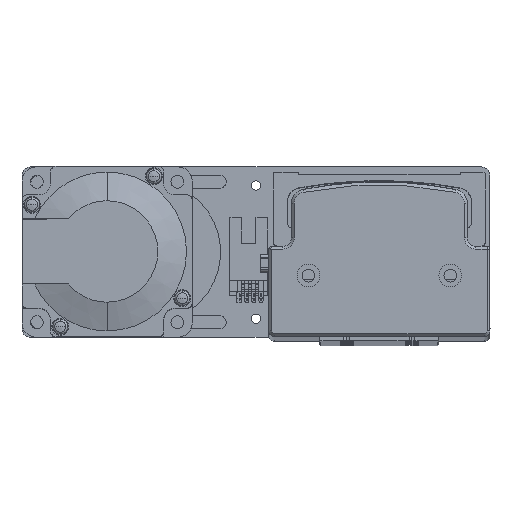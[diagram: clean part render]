
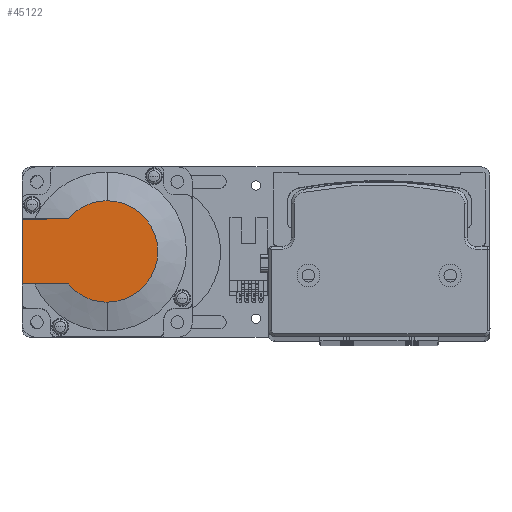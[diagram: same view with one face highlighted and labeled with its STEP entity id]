
A CAD part, top view. The second image highlights one B-rep face of the part: STEP entity #45122.
In plain terms, the highlighted planar face has unit normal (0, 0, 1) as drawn and (-1, 0, 0) by its records, which use the part's own axes.
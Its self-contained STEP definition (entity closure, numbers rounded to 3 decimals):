
#1243 = DIRECTION ( 'NONE',  ( 0., 0., -1. ) ) ;
#1845 = VERTEX_POINT ( 'NONE', #1868 ) ;
#1868 = CARTESIAN_POINT ( 'NONE',  ( -118.5, 13.735, -11.45 ) ) ;
#2064 = PLANE ( 'NONE',  #12110 ) ;
#2220 = DIRECTION ( 'NONE',  ( 0., 0., 1. ) ) ;
#4732 = DIRECTION ( 'NONE',  ( 0., 0., 1. ) ) ;
#5054 = VERTEX_POINT ( 'NONE', #29376 ) ;
#5830 = LINE ( 'NONE', #32334, #16239 ) ;
#6068 = CARTESIAN_POINT ( 'NONE',  ( -118.5, 0., 0. ) ) ;
#7647 = DIRECTION ( 'NONE',  ( 0., -1., 0. ) ) ;
#7812 = EDGE_CURVE ( 'NONE', #46899, #5054, #33372, .T. ) ;
#8676 = VERTEX_POINT ( 'NONE', #37145 ) ;
#9392 = ORIENTED_EDGE ( 'NONE', *, *, #22452, .T. ) ;
#9991 = DIRECTION ( 'NONE',  ( 0., 0., -1. ) ) ;
#10441 = CIRCLE ( 'NONE', #35447, 17.881 ) ;
#12110 = AXIS2_PLACEMENT_3D ( 'NONE', #49567, #25924, #2220 ) ;
#13311 = ORIENTED_EDGE ( 'NONE', *, *, #47789, .T. ) ;
#14910 = EDGE_CURVE ( 'NONE', #8676, #5054, #31184, .T. ) ;
#16239 = VECTOR ( 'NONE', #4732, 1000. ) ;
#16952 = ORIENTED_EDGE ( 'NONE', *, *, #14910, .T. ) ;
#20028 = ORIENTED_EDGE ( 'NONE', *, *, #46624, .F. ) ;
#20246 = ORIENTED_EDGE ( 'NONE', *, *, #33562, .T. ) ;
#20531 = CARTESIAN_POINT ( 'NONE',  ( -118.5, -8.941, -11.45 ) ) ;
#22452 = EDGE_CURVE ( 'NONE', #48325, #8676, #10441, .T. ) ;
#23185 = DIRECTION ( 'NONE',  ( -1., 0., 0. ) ) ;
#23416 = VERTEX_POINT ( 'NONE', #28643 ) ;
#24940 = DIRECTION ( 'NONE',  ( -1., 0., 0. ) ) ;
#25924 = DIRECTION ( 'NONE',  ( -1., 0., 0. ) ) ;
#26079 = CARTESIAN_POINT ( 'NONE',  ( -118.5, 30., 11.45 ) ) ;
#28643 = CARTESIAN_POINT ( 'NONE',  ( -118.5, 30., -11.45 ) ) ;
#29376 = CARTESIAN_POINT ( 'NONE',  ( -118.5, 13.735, 11.45 ) ) ;
#30874 = ORIENTED_EDGE ( 'NONE', *, *, #7812, .F. ) ;
#31130 = LINE ( 'NONE', #20531, #41638 ) ;
#31184 = CIRCLE ( 'NONE', #39487, 17.881 ) ;
#32334 = CARTESIAN_POINT ( 'NONE',  ( -118.5, 30., 25. ) ) ;
#33372 = LINE ( 'NONE', #43048, #41396 ) ;
#33562 = EDGE_CURVE ( 'NONE', #1845, #48325, #36238, .T. ) ;
#33646 = DIRECTION ( 'NONE',  ( -1., 0., 0. ) ) ;
#35447 = AXIS2_PLACEMENT_3D ( 'NONE', #48553, #24940, #1243 ) ;
#36238 = CIRCLE ( 'NONE', #37912, 17.881 ) ;
#36823 = FACE_OUTER_BOUND ( 'NONE', #45921, .T. ) ;
#37145 = CARTESIAN_POINT ( 'NONE',  ( -118.5, 0., 17.881 ) ) ;
#37912 = AXIS2_PLACEMENT_3D ( 'NONE', #6068, #33646, #9991 ) ;
#39487 = AXIS2_PLACEMENT_3D ( 'NONE', #46858, #23185, #50824 ) ;
#41396 = VECTOR ( 'NONE', #7647, 1000. ) ;
#41638 = VECTOR ( 'NONE', #48188, 1000. ) ;
#43048 = CARTESIAN_POINT ( 'NONE',  ( -118.5, 0., 11.45 ) ) ;
#45122 = ADVANCED_FACE ( 'NONE', ( #36823 ), #2064, .T. ) ;
#45921 = EDGE_LOOP ( 'NONE', ( #13311, #20246, #9392, #16952, #30874, #20028 ) ) ;
#46624 = EDGE_CURVE ( 'NONE', #23416, #46899, #5830, .T. ) ;
#46858 = CARTESIAN_POINT ( 'NONE',  ( -118.5, 0., 0. ) ) ;
#46899 = VERTEX_POINT ( 'NONE', #26079 ) ;
#47634 = CARTESIAN_POINT ( 'NONE',  ( -118.5, 0., -17.881 ) ) ;
#47789 = EDGE_CURVE ( 'NONE', #23416, #1845, #31130, .T. ) ;
#48188 = DIRECTION ( 'NONE',  ( 0., -1., 0. ) ) ;
#48325 = VERTEX_POINT ( 'NONE', #47634 ) ;
#48553 = CARTESIAN_POINT ( 'NONE',  ( -118.5, 0., 0. ) ) ;
#49567 = CARTESIAN_POINT ( 'NONE',  ( -118.5, -8.941, 0. ) ) ;
#50824 = DIRECTION ( 'NONE',  ( 0., 0., -1. ) ) ;
